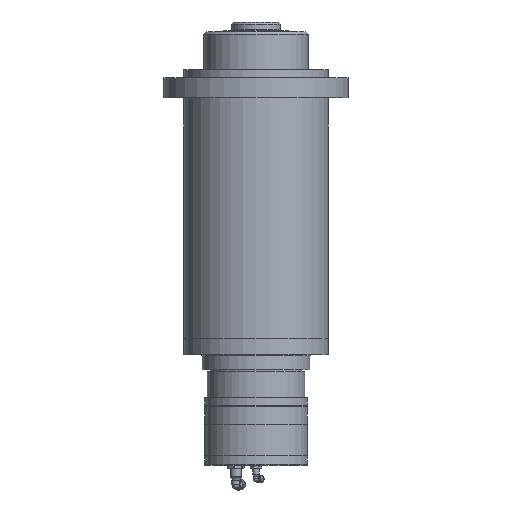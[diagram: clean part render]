
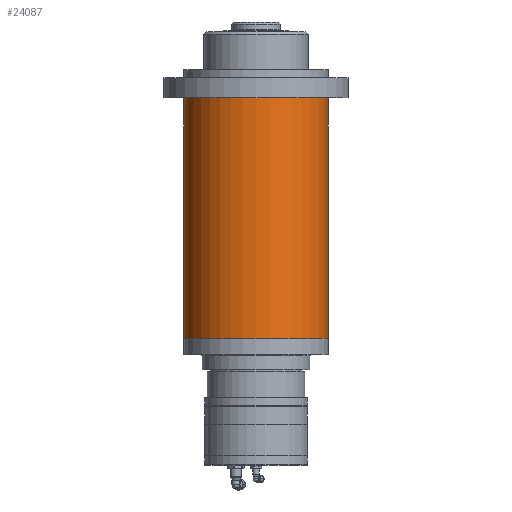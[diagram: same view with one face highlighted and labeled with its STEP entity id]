
A CAD part, front view. The second image highlights one B-rep face of the part: STEP entity #24087.
In plain terms, the highlighted cylindrical face has radius 90 mm (diameter 180 mm), a partial arc.
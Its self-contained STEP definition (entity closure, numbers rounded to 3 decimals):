
#39 = AXIS2_PLACEMENT_3D ( 'NONE', #22050, #19156, #16236 ) ;
#200 = AXIS2_PLACEMENT_3D ( 'NONE', #5651, #2759, #28167 ) ;
#226 = VECTOR ( 'NONE', #9244, 1000. ) ;
#670 = EDGE_CURVE ( 'NONE', #7355, #2151, #12445, .T. ) ;
#716 = ORIENTED_EDGE ( 'NONE', *, *, #14968, .T. ) ;
#1461 = EDGE_LOOP ( 'NONE', ( #18931, #6570, #10843, #716 ) ) ;
#1576 = CARTESIAN_POINT ( 'NONE',  ( -90., 0., 0. ) ) ;
#2151 = VERTEX_POINT ( 'NONE', #7606 ) ;
#2759 = DIRECTION ( 'NONE',  ( 0., 0., 1. ) ) ;
#2935 = VERTEX_POINT ( 'NONE', #1576 ) ;
#5016 = VERTEX_POINT ( 'NONE', #28220 ) ;
#5651 = CARTESIAN_POINT ( 'NONE',  ( 0., 0., 300. ) ) ;
#6570 = ORIENTED_EDGE ( 'NONE', *, *, #14275, .F. ) ;
#6652 = DIRECTION ( 'NONE',  ( 0., 0., -1. ) ) ;
#7355 = VERTEX_POINT ( 'NONE', #18349 ) ;
#7606 = CARTESIAN_POINT ( 'NONE',  ( 90., 0., 0. ) ) ;
#9244 = DIRECTION ( 'NONE',  ( 0., 0., -1. ) ) ;
#9562 = CARTESIAN_POINT ( 'NONE',  ( 90., 0., 300. ) ) ;
#10843 = ORIENTED_EDGE ( 'NONE', *, *, #15149, .T. ) ;
#11108 = CIRCLE ( 'NONE', #39, 90. ) ;
#11847 = VECTOR ( 'NONE', #6652, 1000. ) ;
#12136 = CARTESIAN_POINT ( 'NONE',  ( -90., 0., 300. ) ) ;
#12445 = LINE ( 'NONE', #9562, #11847 ) ;
#14275 = EDGE_CURVE ( 'NONE', #5016, #7355, #21928, .T. ) ;
#14968 = EDGE_CURVE ( 'NONE', #2935, #2151, #11108, .T. ) ;
#15038 = LINE ( 'NONE', #12136, #226 ) ;
#15149 = EDGE_CURVE ( 'NONE', #5016, #2935, #15038, .T. ) ;
#16236 = DIRECTION ( 'NONE',  ( 1., 0., 0. ) ) ;
#16537 = DIRECTION ( 'NONE',  ( -1., 0., 0. ) ) ;
#18349 = CARTESIAN_POINT ( 'NONE',  ( 90., 0., 300. ) ) ;
#18931 = ORIENTED_EDGE ( 'NONE', *, *, #670, .F. ) ;
#19156 = DIRECTION ( 'NONE',  ( 0., 0., 1. ) ) ;
#19453 = DIRECTION ( 'NONE',  ( 0., 0., -1. ) ) ;
#21316 = FACE_OUTER_BOUND ( 'NONE', #1461, .T. ) ;
#21928 = CIRCLE ( 'NONE', #200, 90. ) ;
#22042 = CYLINDRICAL_SURFACE ( 'NONE', #22790, 90. ) ;
#22050 = CARTESIAN_POINT ( 'NONE',  ( 0., 0., 0. ) ) ;
#22342 = CARTESIAN_POINT ( 'NONE',  ( 0., 0., 300. ) ) ;
#22790 = AXIS2_PLACEMENT_3D ( 'NONE', #22342, #19453, #16537 ) ;
#24087 = ADVANCED_FACE ( 'NONE', ( #21316 ), #22042, .T. ) ;
#28167 = DIRECTION ( 'NONE',  ( 1., 0., 0. ) ) ;
#28220 = CARTESIAN_POINT ( 'NONE',  ( -90., 0., 300. ) ) ;
